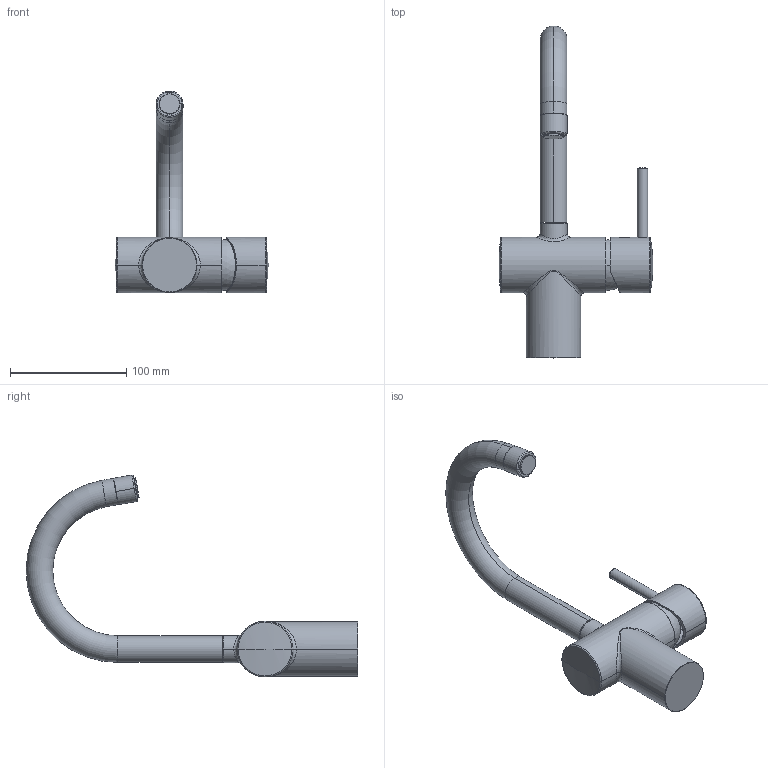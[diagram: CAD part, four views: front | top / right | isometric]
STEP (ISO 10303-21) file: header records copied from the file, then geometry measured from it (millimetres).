
FILE_DESCRIPTION((''),'2;1');
FILE_NAME('18620--00_SUB01_SW0001','2026-09-10T11:31:09',('simi1'),(''),'CREO PARAMETRIC BY PTC INC, 2022244','CREO PARAMETRIC BY PTC INC, 2022244','');
FILE_SCHEMA(('CONFIG_CONTROL_DESIGN'));
Length unit declared in the file: millimetre
Products named in the file (1): 18620--00_SUB01_SW0001
Bounding box: 132.6 x 285.82 x 173.91 mm (x, y, z)
Surface area: 70914.7 mm2 (no closed solid volume)
Topology: 0 solids, 26 shells, 273 faces, 968 edges, 693 vertices
Faces by surface type: bspline 92, cylinder 65, torus 42, plane 42, sphere 25, cone 7
Entity records: 15914 total; most frequent: CARTESIAN_POINT 8332, DIRECTION 1582, ORIENTED_EDGE 1452, EDGE_CURVE 958, AXIS2_PLACEMENT_3D 699, VERTEX_POINT 693, CIRCLE 518, EDGE_LOOP 273
